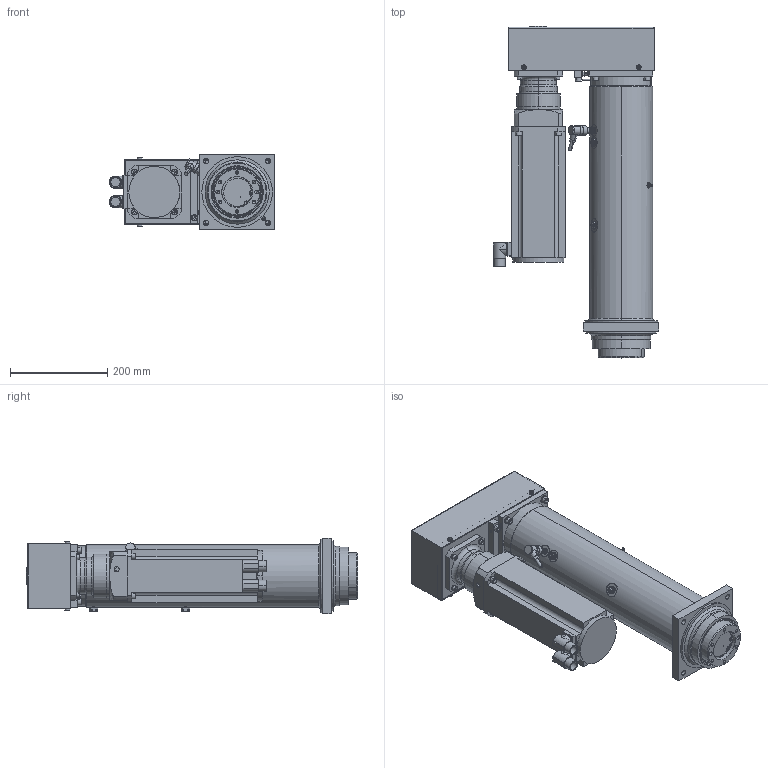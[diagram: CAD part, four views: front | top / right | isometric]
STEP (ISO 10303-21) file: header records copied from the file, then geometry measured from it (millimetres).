
FILE_DESCRIPTION (( 'STEP AP214' ), '1' );
FILE_NAME ('374125.STEP', '2017-10-10T05:55:40', ( 'admin' ), ( 'Microsoft' ), 'SwSTEP 2.0', 'SolidWorks 2016', '' );
FILE_SCHEMA (( 'AUTOMOTIVE_DESIGN' ));
Length unit declared in the file: millimetre
Products named in the file (1): 374125
Bounding box: 340.47 x 682 x 155 mm (x, y, z)
Volume: 9651829 mm3; surface area: 1371281.9 mm2
Topology: 51 solids, 51 shells, 1666 faces, 3890 edges, 2362 vertices
Faces by surface type: plane 680, cylinder 652, cone 274, torus 54, bspline 6
Entity records: 71180 total; most frequent: CARTESIAN_POINT 13980, DIRECTION 8415, ORIENTED_EDGE 7504, EDGE_CURVE 3752, AXIS2_PLACEMENT_3D 3263, VERTEX_POINT 2361, EDGE_LOOP 2017, VECTOR 1889
